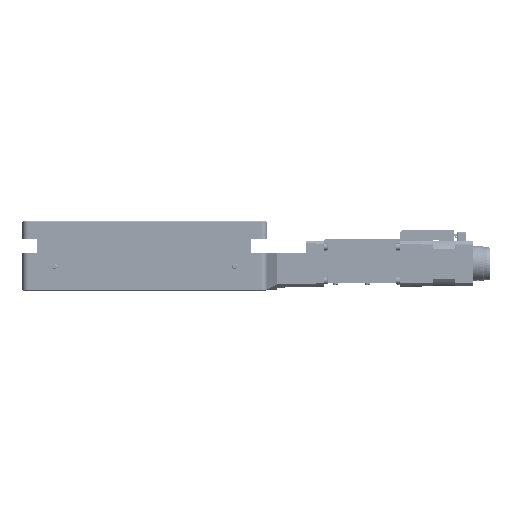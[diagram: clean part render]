
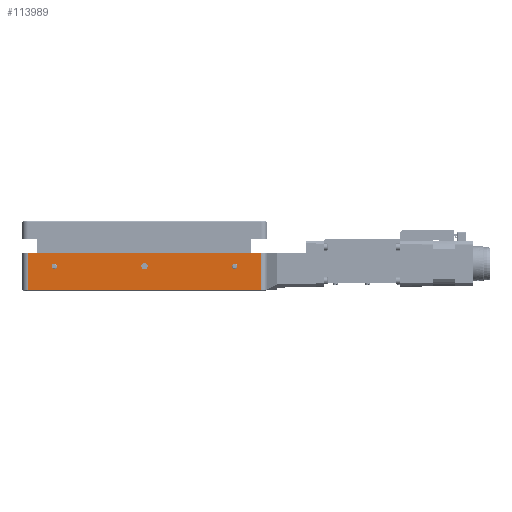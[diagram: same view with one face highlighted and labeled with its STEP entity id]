
A CAD part, left-side view. The second image highlights one B-rep face of the part: STEP entity #113989.
In plain terms, the highlighted planar face has unit normal (-1, 0, 0).
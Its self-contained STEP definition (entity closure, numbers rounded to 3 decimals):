
#12711=LINE($,#324162,#21494);
#12892=LINE($,#325425,#21675);
#12894=LINE($,#325429,#21677);
#12895=LINE($,#325430,#21678);
#21494=VECTOR($,#143839,180.);
#21675=VECTOR($,#144634,28.);
#21677=VECTOR($,#144638,180.);
#21678=VECTOR($,#144639,28.);
#33858=FACE_OUTER_BOUND($,#43123,.T.);
#36061=FACE_BOUND($,#43124,.T.);
#36062=FACE_BOUND($,#43125,.T.);
#36063=FACE_BOUND($,#43126,.T.);
#43123=EDGE_LOOP($,(#101344,#101345,#101346,#101347));
#43124=EDGE_LOOP($,(#101348));
#43125=EDGE_LOOP($,(#101349));
#43126=EDGE_LOOP($,(#101350));
#47033=CIRCLE($,#121660,2.067);
#47079=CIRCLE($,#121759,2.067);
#47080=CIRCLE($,#121760,2.459);
#56976=VERTEX_POINT($,#324159);
#56977=VERTEX_POINT($,#324161);
#57166=VERTEX_POINT($,#325180);
#57238=VERTEX_POINT($,#325422);
#57240=VERTEX_POINT($,#325428);
#57241=VERTEX_POINT($,#325431);
#57242=VERTEX_POINT($,#325433);
#71953=EDGE_CURVE($,#56976,#56977,#12711,.T.);
#72188=EDGE_CURVE($,#57166,#57166,#47033,.T.);
#72307=EDGE_CURVE($,#57238,#56976,#12892,.T.);
#72309=EDGE_CURVE($,#57240,#57238,#12894,.T.);
#72310=EDGE_CURVE($,#56977,#57240,#12895,.T.);
#72311=EDGE_CURVE($,#57241,#57241,#47079,.T.);
#72312=EDGE_CURVE($,#57242,#57242,#47080,.T.);
#101344=ORIENTED_EDGE($,*,*,#72309,.F.);
#101345=ORIENTED_EDGE($,*,*,#72310,.F.);
#101346=ORIENTED_EDGE($,*,*,#71953,.F.);
#101347=ORIENTED_EDGE($,*,*,#72307,.F.);
#101348=ORIENTED_EDGE($,*,*,#72188,.T.);
#101349=ORIENTED_EDGE($,*,*,#72311,.T.);
#101350=ORIENTED_EDGE($,*,*,#72312,.T.);
#108086=PLANE($,#121758);
#113989=ADVANCED_FACE($,(#33858,#36061,#36062,#36063),#108086,.T.);
#121660=AXIS2_PLACEMENT_3D($,#325181,#144365,#144366);
#121758=AXIS2_PLACEMENT_3D($,#325427,#144636,#144637);
#121759=AXIS2_PLACEMENT_3D($,#325432,#144640,#144641);
#121760=AXIS2_PLACEMENT_3D($,#325434,#144642,#144643);
#143839=DIRECTION($,(0.,-1.,0.));
#144365=DIRECTION('center_axis',(1.,0.,0.));
#144366=DIRECTION('ref_axis',(0.,0.,
1.));
#144634=DIRECTION($,(0.,0.,1.));
#144636=DIRECTION('center_axis',(-1.,0.,0.));
#144637=DIRECTION('ref_axis',(0.,-1.,0.));
#144638=DIRECTION($,(0.,1.,0.));
#144639=DIRECTION($,(0.,0.,-1.));
#144640=DIRECTION('center_axis',(1.,0.,0.));
#144641=DIRECTION('ref_axis',(0.,0.,
1.));
#144642=DIRECTION('center_axis',(1.,0.,0.));
#144643=DIRECTION('ref_axis',(0.,0.,
1.));
#324159=CARTESIAN_POINT('',(-125.,90.,14.5));
#324161=CARTESIAN_POINT('',(-125.,-90.,14.5));
#324162=CARTESIAN_POINT($,(-125.,95.,14.5));
#325180=CARTESIAN_POINT('',(-125.,70.,6.567));
#325181=CARTESIAN_POINT('Origin',(-125.,70.,4.5));
#325422=CARTESIAN_POINT('',(-125.,90.,-13.5));
#325425=CARTESIAN_POINT($,(-125.,90.,0.));
#325427=CARTESIAN_POINT('Origin',(-125.,95.,0.));
#325428=CARTESIAN_POINT('',(-125.,-90.,-13.5));
#325429=CARTESIAN_POINT($,(-125.,47.5,-13.5));
#325430=CARTESIAN_POINT($,(-125.,-90.,0.));
#325431=CARTESIAN_POINT('',(-125.,-70.,6.567));
#325432=CARTESIAN_POINT('Origin',(-125.,-70.,4.5));
#325433=CARTESIAN_POINT('',(-125.,0.,6.959));
#325434=CARTESIAN_POINT('Origin',(-125.,0.,4.5));
